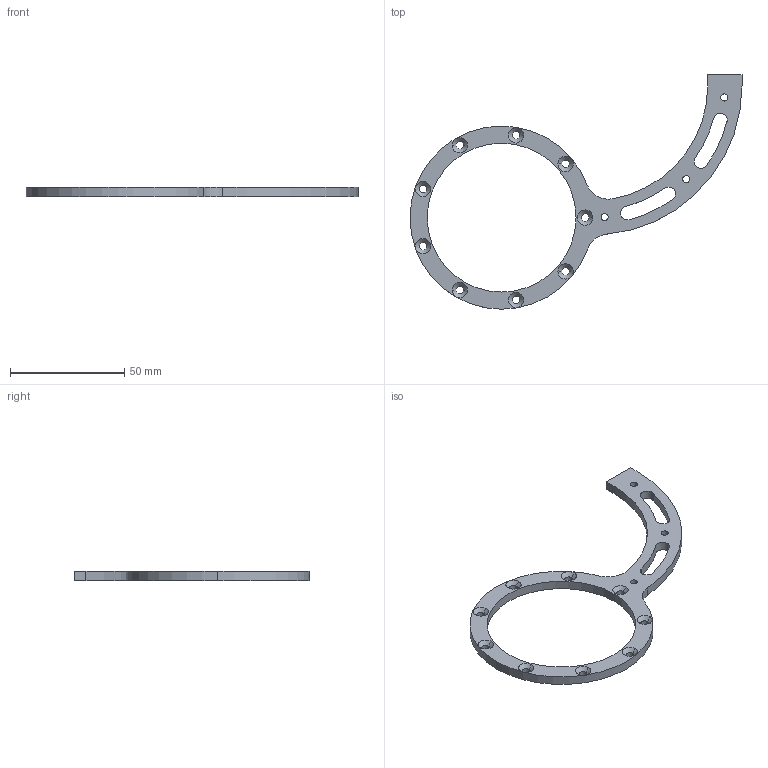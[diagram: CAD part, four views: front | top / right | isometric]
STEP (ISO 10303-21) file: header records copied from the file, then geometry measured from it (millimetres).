
FILE_DESCRIPTION (( 'STEP AP203' ), '1' );
FILE_NAME ('碳板-电机内部固定.STEP', '2026-07-29T04:07:57', ( '' ), ( '' ), 'SwSTEP 2.0', 'SolidWorks 2025', '' );
FILE_SCHEMA (( 'CONFIG_CONTROL_DESIGN' ));
Length unit declared in the file: millimetre
Products named in the file (1): 碳板-电机内部固定
Bounding box: 145 x 102.4 x 4 mm (x, y, z)
Volume: 10866.1 mm3; surface area: 9003.3 mm2
Topology: 1 solids, 1 shells, 65 faces, 171 edges, 108 vertices
Faces by surface type: cylinder 42, cone 18, plane 5
Entity records: 2180 total; most frequent: DIRECTION 405, CARTESIAN_POINT 345, ORIENTED_EDGE 342, EDGE_CURVE 171, AXIS2_PLACEMENT_3D 168, VERTEX_POINT 108, CIRCLE 102, EDGE_LOOP 95
